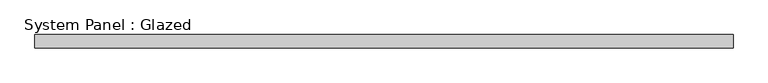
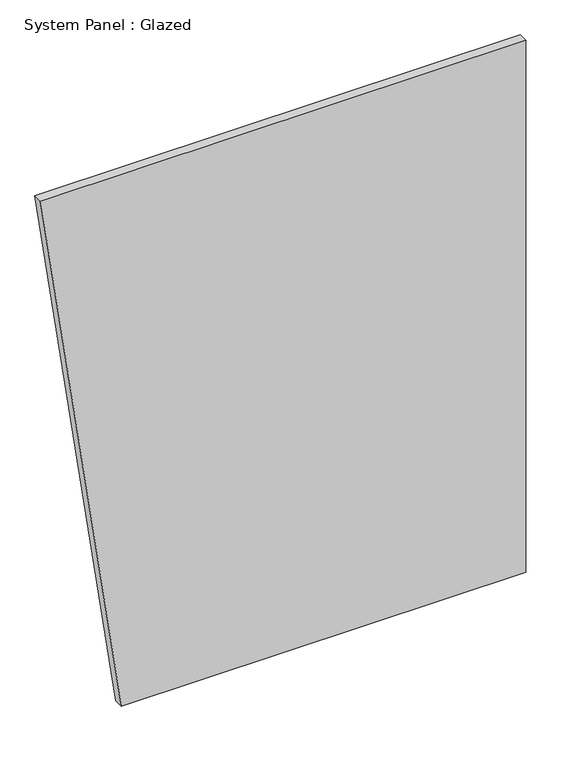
"""IFC4 building model written with IfcOpenShell, lengths in millimetres: plate geometry, System Panel : Glazed."""

from ifc_helpers import new_model, si_unit, frame, origin, place, context, project, spatial, polyline, outline, extrude, source, transform, mapped, element, save


def system_panel_glazed_089a2384(model_context):
    return source(origin(), model_context, "Body", "SweptSolid", [
        extrude(outline(polyline([(0.0, -438.5611512), (0.0, 657.8417268), (1524.0, 657.8417268), (1524.0, -657.8417268), (0.0, -438.5611512)])), frame((0.0, 19.05, 0.0), z_axis=(0.0, 1.0, 0.0), x_axis=(0.0, 0.0, 1.0)), (0.0, 0.0, 1.0), 25.4),
    ])


if __name__ == "__main__":
    model = new_model("IFC4")
    model_context = context("Model", 3, world=origin())
    ifc_project = project(units=[si_unit("LENGTHUNIT", "METRE", prefix="MILLI")], contexts=[model_context])
    site = spatial("IfcSite", under=ifc_project)
    building = spatial("IfcBuilding", under=site)
    placement = place(None, origin())
    system_panel_glazed_shape = system_panel_glazed_089a2384(model_context)
    element("IfcPlate", 1, ObjectType="System Panel : Glazed", at=placement, inside=building, context=model_context, shape_type="MappedRepresentation", body=[
        mapped(system_panel_glazed_shape, transform((0.0, 0.0, 0.0), x_axis=(1.0, 0.0, 0.0), y_axis=(0.0, 1.0, 0.0), z_axis=(0.0, 0.0, 1.0))),
    ])
    save(model, "model.ifc")
